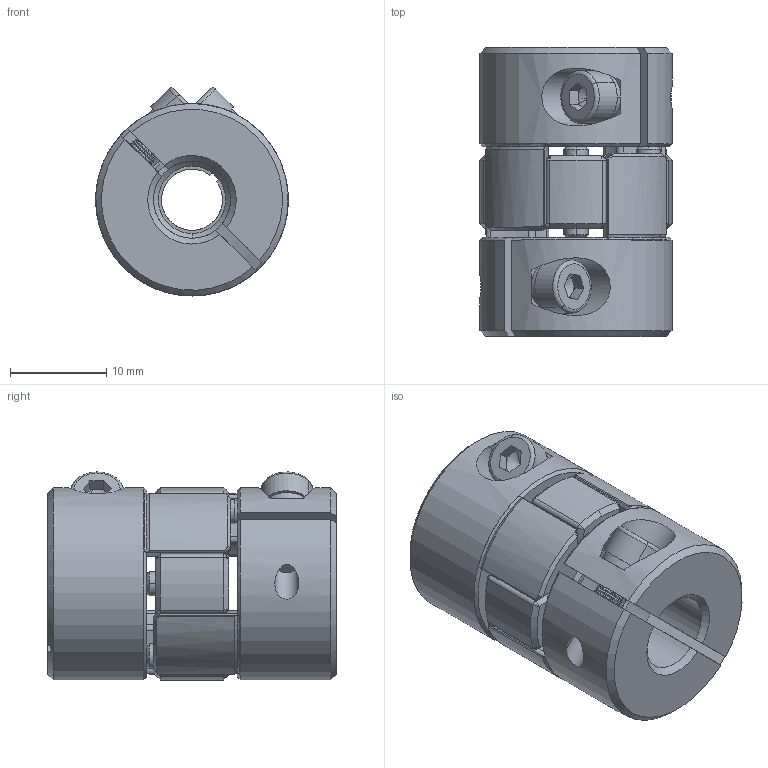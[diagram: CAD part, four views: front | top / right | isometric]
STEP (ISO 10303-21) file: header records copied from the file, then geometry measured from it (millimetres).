
FILE_DESCRIPTION (( 'STEP AP203' ), '1' );
FILE_NAME ('LF-B-D20L30-6.35-8.STEP', '2021-10-27T02:52:03', ( '' ), ( '' ), 'SwSTEP 2.0', 'SolidWorks 2018', '' );
FILE_SCHEMA (( 'CONFIG_CONTROL_DESIGN' ));
Length unit declared in the file: millimetre
Products named in the file (1): LF-B-D20L30-6.35-8
Bounding box: 20 x 30 x 21.62 mm (x, y, z)
Volume: 7496.1 mm3; surface area: 4872.5 mm2
Topology: 1 solids, 1 shells, 518 faces, 1253 edges, 691 vertices
Faces by surface type: cone 252, cylinder 192, plane 62, torus 12
Entity records: 15022 total; most frequent: CARTESIAN_POINT 2902, DIRECTION 2742, ORIENTED_EDGE 2426, EDGE_CURVE 1213, AXIS2_PLACEMENT_3D 1107, VERTEX_POINT 691, CIRCLE 588, EDGE_LOOP 546
